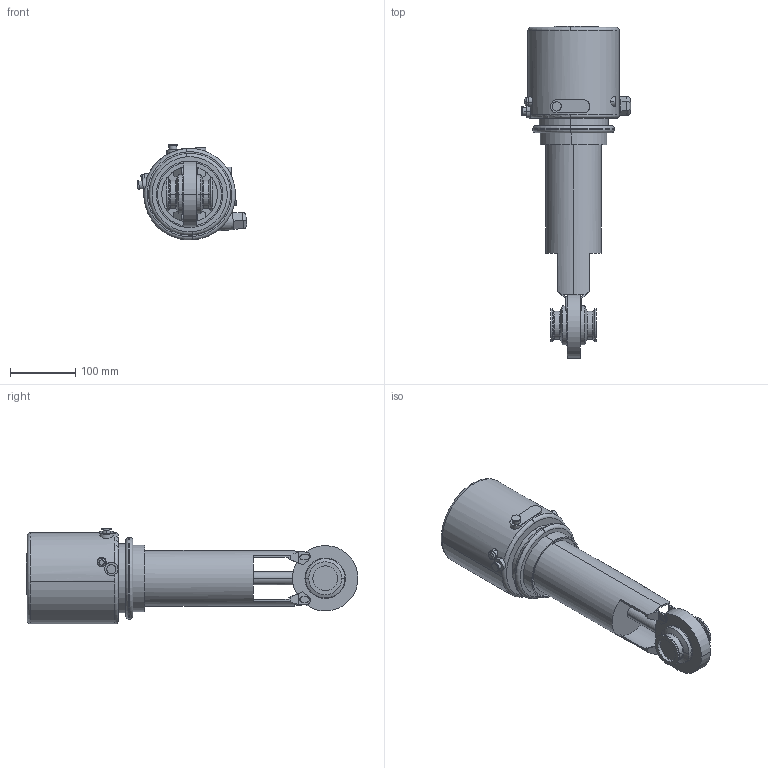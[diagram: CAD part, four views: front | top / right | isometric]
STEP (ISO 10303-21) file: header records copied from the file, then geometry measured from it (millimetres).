
FILE_DESCRIPTION(('Creo Elements/Direct Modeling STEP Export'),'2;1');
FILE_NAME('SV1-40-CU4-12CL.stp','2014-06-23T11:29:46',(''),(''),'Creo Elements/Direct Modeling STEP processor for AP214 (Solid Model)','Creo Elements/Direct Modeling 17.0D 15-Jul-2011 (C) Parametric Technology GmbH','');
FILE_SCHEMA(('AUTOMOTIVE_DESIGN { 1 0 10303 214 1 1 1 1 }'));
Length unit declared in the file: millimetre
Products named in the file (3): SV1-40-12CL; CU4-T-SPX_logo; SV1-40-FZ-12CL
Assembly tree (2 placements, depth 2):
  SV1-40-FZ-12CL
    CU4-T-SPX_logo
    SV1-40-12CL
Bounding box: 167.03 x 507.43 x 146.59 mm (x, y, z)
Volume: 3755509.2 mm3; surface area: 223751 mm2
Topology: 2 solids, 2 shells, 271 faces, 702 edges, 444 vertices
Faces by surface type: plane 114, cylinder 90, extrusion 33, torus 26, cone 8
Entity records: 12058 total; most frequent: CARTESIAN_POINT 5755, ORIENTED_EDGE 1404, DIRECTION 1152, EDGE_CURVE 702, VERTEX_POINT 444, AXIS2_PLACEMENT_3D 406, VECTOR 340, LINE 307
